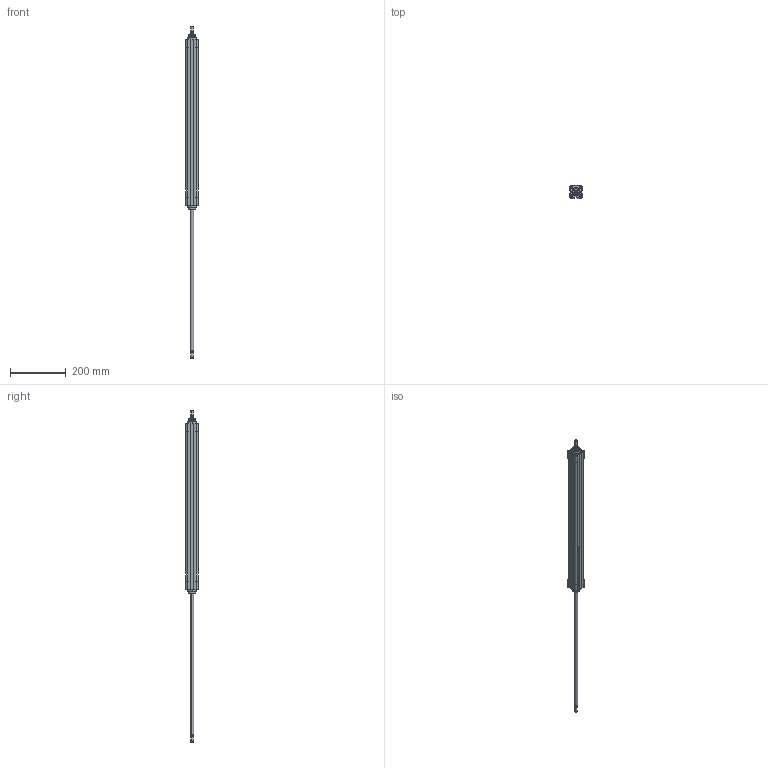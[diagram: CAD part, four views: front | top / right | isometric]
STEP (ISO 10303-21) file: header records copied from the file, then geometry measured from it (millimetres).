
FILE_DESCRIPTION((''),'2;1');
FILE_NAME('F:\Lib-3d\1380\CIL\1380_32_0500_02.stp','2004-01-07T16:01:13',('maffial1'),(''),'Autodesk Inventor 8','Autodesk Inventor 8','');
FILE_SCHEMA(('AUTOMOTIVE_DESIGN { 1 0 10303 214 1 1 1 1 }'));
Length unit declared in the file: millimetre
Products named in the file (3): 1380_32_0500_02; CPP04_32_500; CPP03_32_500
Assembly tree (2 placements, depth 2):
  1380_32_0500_02
    CPP04_32_500
    CPP03_32_500
Bounding box: 46 x 46 x 1190 mm (x, y, z)
Volume: 1183210.3 mm3; surface area: 212027.7 mm2
Topology: 2 solids, 2 shells, 236 faces, 564 edges, 356 vertices
Faces by surface type: plane 80, cylinder 66, bspline 62, cone 24, torus 4
Entity records: 7513 total; most frequent: CARTESIAN_POINT 2031, DIRECTION 1154, ORIENTED_EDGE 1096, EDGE_CURVE 548, AXIS2_PLACEMENT_3D 427, VERTEX_POINT 356, VECTOR 300, LINE 300
